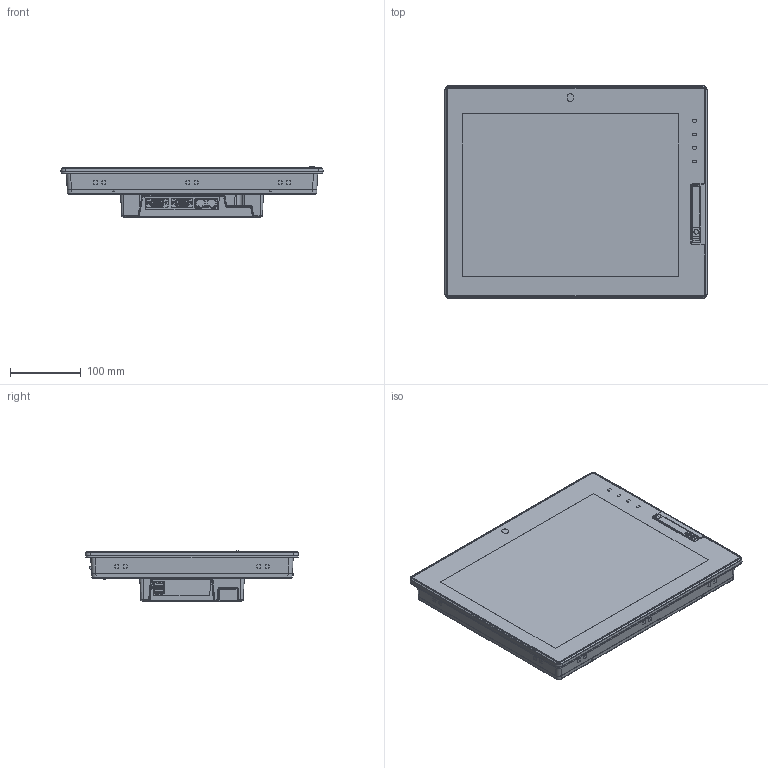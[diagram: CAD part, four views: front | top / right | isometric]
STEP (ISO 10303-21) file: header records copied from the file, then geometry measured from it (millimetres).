
FILE_DESCRIPTION((''),'2;1');
FILE_NAME('3D_TOPRT1540_V2','2024-09-09T12:21:58',('Youngmin'),(''),'CREO PARAMETRIC BY PTC INC, 2022284','CREO PARAMETRIC BY PTC INC, 2022284','');
FILE_SCHEMA(('CONFIG_CONTROL_DESIGN'));
Products named in the file (1): 3D_TOPRT1540_V2
Bounding box: 369.4 x 300.4 x 71 mm (x, y, z)
Volume: 4598339.8 mm3; surface area: 385632.8 mm2
Topology: 1 solids, 18 shells, 4103 faces, 10859 edges, 6846 vertices
Faces by surface type: plane 1959, cylinder 1257, bspline 442, torus 188, cone 170, extrusion 52, sphere 33, revolution 2
Entity records: 150806 total; most frequent: CARTESIAN_POINT 53309, ORIENTED_EDGE 21640, DIRECTION 18301, EDGE_CURVE 10820, VERTEX_POINT 6846, VECTOR 6567, LINE 6515, AXIS2_PLACEMENT_3D 5866
